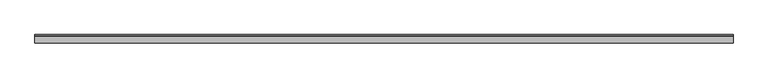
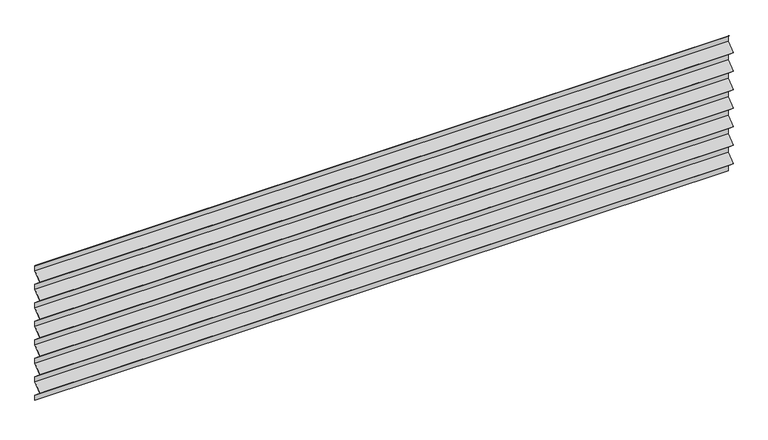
"""IFC4 building model written with IfcOpenShell, lengths in millimetres: plate geometry, HIANSA - H20.F09.008-CHAPA PERFILADA FACHADA HORIZONTAL - MT53MA7 - Panel de Muro Cortina : -."""

import ifcopenshell
import ifcopenshell.guid

model = None  # the IFC model being written
_history = None  # IfcOwnerHistory: only IFC2X3 demands one
_inside = {}  # id of a spatial element -> (the spatial element, [elements in it])
_under = {}  # id of a project, library or spatial element -> (it, [spatial elements below it])
_declared = {}  # id of a project -> (the project, [libraries it declares])
_typed = {}  # id of a type object -> (the type object, [elements of that type])
_made_of = {}  # id of a material, layer set ... -> (it, [elements and type objects made of it])


def new_model(schema):
    """Start an empty IFC model of exactly this schema.

    Asked for "IFC4X3", IfcOpenShell would pick the latest addendum, in which some entities
    have other attributes; the version numbers below select the first issue.
    IFC2X3 requires an IfcOwnerHistory on every rooted entity: one is made here for all.
    """
    global model, _history
    if schema == "IFC4X3":
        model = ifcopenshell.file(schema_version=(4, 3, 0, 0))
    else:
        model = ifcopenshell.file(schema=schema)
    _inside.clear()
    _under.clear()
    _declared.clear()
    _typed.clear()
    _made_of.clear()
    _history = None
    if model.schema == "IFC2X3":
        org = make("IfcOrganization", Name="unknown")
        user = make(
            "IfcPersonAndOrganization",
            ThePerson=make("IfcPerson", FamilyName="unknown"),
            TheOrganization=org,
        )
        app = make(
            "IfcApplication",
            ApplicationDeveloper=org,
            Version="unknown",
            ApplicationFullName="unknown",
            ApplicationIdentifier="unknown",
        )
        _history = make(
            "IfcOwnerHistory",
            OwningUser=user,
            OwningApplication=app,
            ChangeAction="ADDED",
            CreationDate=0,
        )
    return model


def make(cls, **values):
    """One entity of the class cls with the attributes given. An attribute that is None is left unset."""
    return model.create_entity(
        cls, **{name: value for name, value in values.items() if value is not None}
    )


def rooted(cls, **values):
    """An entity with a GlobalId (a new one), such as an element, a storey or a relation."""
    return make(cls, GlobalId=ifcopenshell.guid.new(), OwnerHistory=_history, **values)


def si_unit(unit_type, name, prefix=None):
    """IfcSIUnit, for example si_unit("LENGTHUNIT", "METRE", prefix="MILLI")."""
    return make("IfcSIUnit", UnitType=unit_type, Prefix=prefix, Name=name)


def assignment(units):
    """IfcUnitAssignment: the units of a project."""
    return None if units is None else make("IfcUnitAssignment", Units=units)


def point(xyz):
    """IfcCartesianPoint."""
    return None if xyz is None else make("IfcCartesianPoint", Coordinates=xyz)


def direction(xyz):
    """IfcDirection."""
    return None if xyz is None else make("IfcDirection", DirectionRatios=xyz)


def frame(location, z_axis=None, x_axis=None):
    """IfcAxis2Placement3D, a coordinate frame: its origin and axes. An axis left out is left unset."""
    return make(
        "IfcAxis2Placement3D",
        Location=point(location),
        Axis=direction(z_axis),
        RefDirection=direction(x_axis),
    )


def origin():
    """The frame at (0, 0, 0) with its axes left unset."""
    return frame((0.0, 0.0, 0.0))


def place(relative_to, where):
    """IfcLocalPlacement: puts the frame where relative to a parent placement (None: the world)."""
    return make(
        "IfcLocalPlacement", PlacementRelTo=relative_to, RelativePlacement=where
    )


def context(
    kind, dimensions, precision=None, world=None, true_north=None, identifier=None
):
    """IfcGeometricRepresentationContext, for example the 3D "Model" context."""
    return make(
        "IfcGeometricRepresentationContext",
        ContextIdentifier=identifier,
        ContextType=kind,
        CoordinateSpaceDimension=dimensions,
        Precision=precision,
        WorldCoordinateSystem=world,
        TrueNorth=true_north,
    )


def project(units=None, contexts=None):
    """IfcProject with its units and contexts."""
    return rooted(
        "IfcProject",
        Name="project",
        RepresentationContexts=contexts,
        UnitsInContext=assignment(units),
    )


def spatial(cls, under=None, at=None, **own):
    """A site, building, storey or space (cls), placed at a placement, below another one or the project."""
    s = rooted(cls, ObjectPlacement=at, **own)
    if under is not None:
        _under.setdefault(under.id(), (under, []))[1].append(s)
    return s


def polyline(points):
    """IfcPolyline through the points."""
    return make("IfcPolyline", Points=[point(p) for p in points])


def outline(outer, holes=None, kind="AREA"):
    """IfcArbitraryClosedProfileDef: a profile drawn as a closed curve; with holes, ...WithVoids."""
    if holes is None:
        return make("IfcArbitraryClosedProfileDef", ProfileType=kind, OuterCurve=outer)
    return make(
        "IfcArbitraryProfileDefWithVoids",
        ProfileType=kind,
        OuterCurve=outer,
        InnerCurves=holes,
    )


def extrude(swept, where, along, depth):
    """IfcExtrudedAreaSolid: the profile swept, set in the frame where, extruded along a direction by depth."""
    return make(
        "IfcExtrudedAreaSolid",
        SweptArea=swept,
        Position=where,
        ExtrudedDirection=direction(along),
        Depth=depth,
    )


def shape(context_of_items, identifier, shape_type, items):
    """IfcShapeRepresentation: the items that make up one representation, for example the "Body"."""
    return make(
        "IfcShapeRepresentation",
        ContextOfItems=context_of_items,
        RepresentationIdentifier=identifier,
        RepresentationType=shape_type,
        Items=items,
    )


def source(mapping_origin, context_of_items, identifier, shape_type, items):
    """IfcRepresentationMap: a shape defined once, which mapped items show again and again."""
    return make(
        "IfcRepresentationMap",
        MappingOrigin=mapping_origin,
        MappedRepresentation=shape(context_of_items, identifier, shape_type, items),
    )


def transform(
    local_origin,
    x_axis=None,
    y_axis=None,
    z_axis=None,
    scale=None,
    scale2=None,
    scale3=None,
    uniform=True,
):
    """IfcCartesianTransformationOperator3D, or its non-uniform kind. x_axis, y_axis, z_axis: its Axis1, 2, 3."""
    if uniform:
        return make(
            "IfcCartesianTransformationOperator3D",
            Axis1=direction(x_axis),
            Axis2=direction(y_axis),
            LocalOrigin=point(local_origin),
            Scale=scale,
            Axis3=direction(z_axis),
        )
    return make(
        "IfcCartesianTransformationOperator3DnonUniform",
        Axis1=direction(x_axis),
        Axis2=direction(y_axis),
        LocalOrigin=point(local_origin),
        Scale=scale,
        Axis3=direction(z_axis),
        Scale2=scale2,
        Scale3=scale3,
    )


def mapped(mapping_source, mapping_target):
    """IfcMappedItem: shows the shape of a source again, moved by a transform."""
    return make(
        "IfcMappedItem", MappingSource=mapping_source, MappingTarget=mapping_target
    )


def made_of(thing, what):
    """Note that an element or type object is made of a material, layer set ...; save() writes the relation."""
    if what is not None:
        _made_of.setdefault(what.id(), (what, []))[1].append(thing)
    return thing


def element(
    cls,
    number,
    at=None,
    inside=None,
    cuts=None,
    type_object=None,
    material=None,
    context=None,
    identifier="Body",
    shape_type=None,
    held_by="IfcProductDefinitionShape",
    body=None,
    shapes=None,
    **own,
):
    """One element of the class cls, such as IfcWall. Its Tag is "e" and its number.

    at: its placement. inside: the storey or other place that contains it. cuts: it is an
    opening in that element (IfcRelVoidsElement). A single representation is given by context,
    identifier, shape_type and body (its items); several are given by shapes. held_by: the class
    of the entity that holds the representations. save() writes the other relations.
    """
    e = rooted(cls, Tag="e%d" % number, ObjectPlacement=at, **own)
    if body is not None:
        shapes = [shape(context, identifier, shape_type, body)]
    if shapes is not None:
        e.Representation = make(held_by, Representations=shapes)
    if inside is not None:
        _inside.setdefault(inside.id(), (inside, []))[1].append(e)
    if cuts is not None:
        rooted(
            "IfcRelVoidsElement", RelatingBuildingElement=cuts, RelatedOpeningElement=e
        )
    if type_object is not None:
        _typed.setdefault(type_object.id(), (type_object, []))[1].append(e)
    return made_of(e, material)


def aggregate(whole, parts):
    """IfcRelAggregates: a whole, such as a stair, and the parts it consists of."""
    return rooted("IfcRelAggregates", RelatingObject=whole, RelatedObjects=parts)


def save(model, path):
    """Write the relations noted so far, then the file.

    IfcRelAggregates (storeys below a building ...), IfcRelContainedInSpatialStructure (elements
    in a storey), IfcRelDefinesByType, IfcRelAssociatesMaterial and IfcRelDeclares: one each for
    every whole, place, type object, material and project.
    """
    for whole, parts in _under.values():
        aggregate(whole, parts)
    for where, things in _inside.values():
        rooted(
            "IfcRelContainedInSpatialStructure",
            RelatedElements=things,
            RelatingStructure=where,
        )
    for kind, things in _typed.values():
        rooted("IfcRelDefinesByType", RelatedObjects=things, RelatingType=kind)
    for what, things in _made_of.values():
        rooted("IfcRelAssociatesMaterial", RelatedObjects=things, RelatingMaterial=what)
    for by, libraries in _declared.values():
        rooted("IfcRelDeclares", RelatingContext=by, RelatedDefinitions=libraries)
    model.write(path)


def plate_0a771098(model_context):
    return source(origin(), model_context, "Body", "SweptSolid", [
        extrude(outline(polyline([(-0.8, 884.8164674), (-9.8968326, 892.6425544), (-9.3750934, 893.2490099), (0.0, 885.1835326), (0.0, 850.4494022), (-51.8801207, 805.8164674), (0.0, 761.1835326), (0.0, 726.4494022), (-51.8801207, 681.8164674), (0.0, 637.1835326), (0.0, 602.4494022), (-51.8801207, 557.8164674), (0.0, 513.1835326), (0.0, 478.4494022), (-51.8801207, 433.8164674), (0.0, 389.1835326), (0.0, 354.4494022), (-51.8801207, 309.8164674), (0.0, 265.1835326), (0.0, 230.4494022), (-51.8801207, 185.8164674), (0.0, 141.1835326), (0.0, 106.4494022), (-51.8801207, 61.8164674), (0.0, 17.1835326), (0.0, -17.1835326), (-0.8, -17.1835326), (-0.8, 16.8164674), (-53.1067873, 61.8164674), (-0.8, 106.8164674), (-0.8, 140.8164674), (-53.1067873, 185.8164674), (-0.8, 230.8164674), (-0.8, 264.8164674), (-53.1067873, 309.8164674), (-0.8, 354.8164674), (-0.8, 388.8164674), (-53.1067873, 433.8164674), (-0.8, 478.8164674), (-0.8, 512.8164674), (-53.1067873, 557.8164674), (-0.8, 602.8164674), (-0.8, 636.8164674), (-53.1067873, 681.8164674), (-0.8, 726.8164674), (-0.8, 760.8164674), (-53.1067873, 805.8164674), (-0.8, 850.8164674), (-0.8, 884.8164674)])), frame((-2200.0, 0.0, 0.0), z_axis=(1.0, 0.0, 0.0), x_axis=(0.0, 1.0, 0.0)), (0.0, 0.0, 1.0), 4400.0),
    ])


if __name__ == "__main__":
    model = new_model("IFC4")
    model_context = context("Model", 3, world=origin())
    ifc_project = project(units=[si_unit("LENGTHUNIT", "METRE", prefix="MILLI")], contexts=[model_context])
    site = spatial("IfcSite", under=ifc_project)
    building = spatial("IfcBuilding", under=site)
    placement = place(None, origin())
    plate_shape = plate_0a771098(model_context)
    element("IfcPlate", 1, ObjectType="HIANSA - H20.F09.008-CHAPA PERFILADA FACHADA HORIZONTAL - MT53MA7 - Panel de Muro Cortina : -", at=placement, inside=building, context=model_context, shape_type="MappedRepresentation", body=[
        mapped(plate_shape, transform((0.0, 0.0, 0.0), x_axis=(1.0, 0.0, 0.0), y_axis=(0.0, 1.0, 0.0), z_axis=(0.0, 0.0, 1.0))),
    ])
    save(model, "model.ifc")
